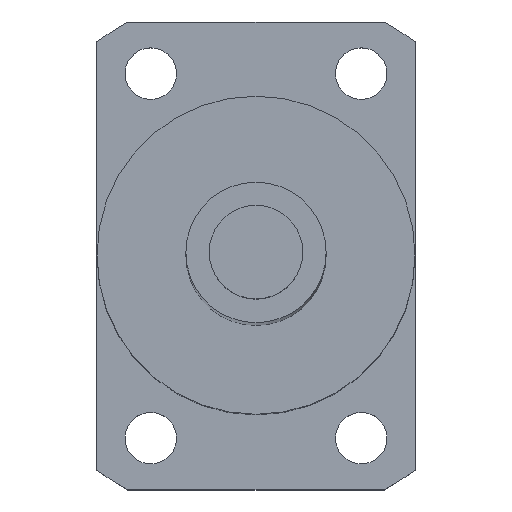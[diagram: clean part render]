
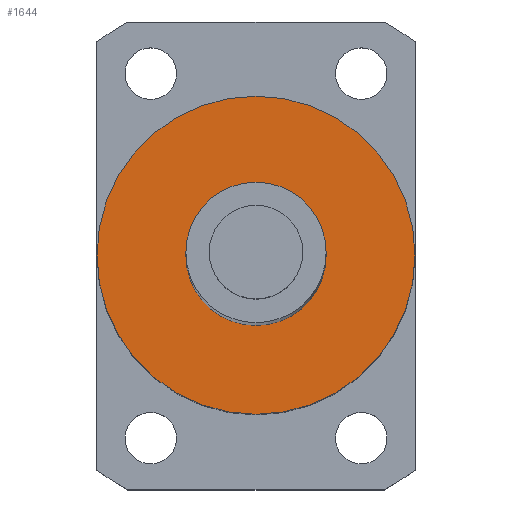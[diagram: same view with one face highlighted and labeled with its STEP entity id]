
A CAD part, top view. The second image highlights one B-rep face of the part: STEP entity #1644.
In plain terms, the highlighted planar face has unit normal (0, 0, 1).
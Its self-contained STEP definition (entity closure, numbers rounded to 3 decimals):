
#512=CARTESIAN_POINT('',(0.,0.,282.5));
#513=DIRECTION('',(0.,0.,1.));
#514=DIRECTION('',(1.,0.,0.));
#515=AXIS2_PLACEMENT_3D('',#512,#513,#514);
#517=CARTESIAN_POINT('',(0.,0.,282.5));
#518=DIRECTION('',(0.,0.,1.));
#519=DIRECTION('',(-1.,0.,0.));
#520=AXIS2_PLACEMENT_3D('',#517,#518,#519);
#522=CARTESIAN_POINT('',(0.,0.,282.5));
#523=DIRECTION('',(0.,0.,1.));
#524=DIRECTION('',(1.,0.,0.));
#525=AXIS2_PLACEMENT_3D('',#522,#523,#524);
#527=CARTESIAN_POINT('',(0.,0.,282.5));
#528=DIRECTION('',(0.,0.,1.));
#529=DIRECTION('',(-1.,0.,0.));
#530=AXIS2_PLACEMENT_3D('',#527,#528,#529);
#757=CARTESIAN_POINT('',(17.,0.,282.5));
#758=CARTESIAN_POINT('',(-17.,0.,282.5));
#759=VERTEX_POINT('',#757);
#760=VERTEX_POINT('',#758);
#769=CARTESIAN_POINT('',(7.5,0.,282.5));
#770=CARTESIAN_POINT('',(-7.5,0.,282.5));
#771=VERTEX_POINT('',#769);
#772=VERTEX_POINT('',#770);
#1629=CARTESIAN_POINT('',(0.,0.,282.5));
#1630=DIRECTION('',(0.,0.,1.));
#1631=DIRECTION('',(1.,0.,0.));
#1632=AXIS2_PLACEMENT_3D('',#1629,#1630,#1631);
#1633=PLANE('',#1632);
#1634=ORIENTED_EDGE('',*,*,#1609,.F.);
#1635=ORIENTED_EDGE('',*,*,#1623,.F.);
#1636=EDGE_LOOP('',(#1634,#1635));
#1637=FACE_OUTER_BOUND('',#1636,.F.);
#1639=ORIENTED_EDGE('',*,*,#1638,.T.);
#1641=ORIENTED_EDGE('',*,*,#1640,.T.);
#1642=EDGE_LOOP('',(#1639,#1641));
#1643=FACE_BOUND('',#1642,.F.);
#1644=ADVANCED_FACE('',(#1637,#1643),#1633,.T.);
#516=CIRCLE('',#515,17.);
#521=CIRCLE('',#520,17.);
#526=CIRCLE('',#525,7.5);
#531=CIRCLE('',#530,7.5);
#1609=EDGE_CURVE('',#759,#760,#516,.T.);
#1623=EDGE_CURVE('',#760,#759,#521,.T.);
#1638=EDGE_CURVE('',#771,#772,#526,.T.);
#1640=EDGE_CURVE('',#772,#771,#531,.T.);
